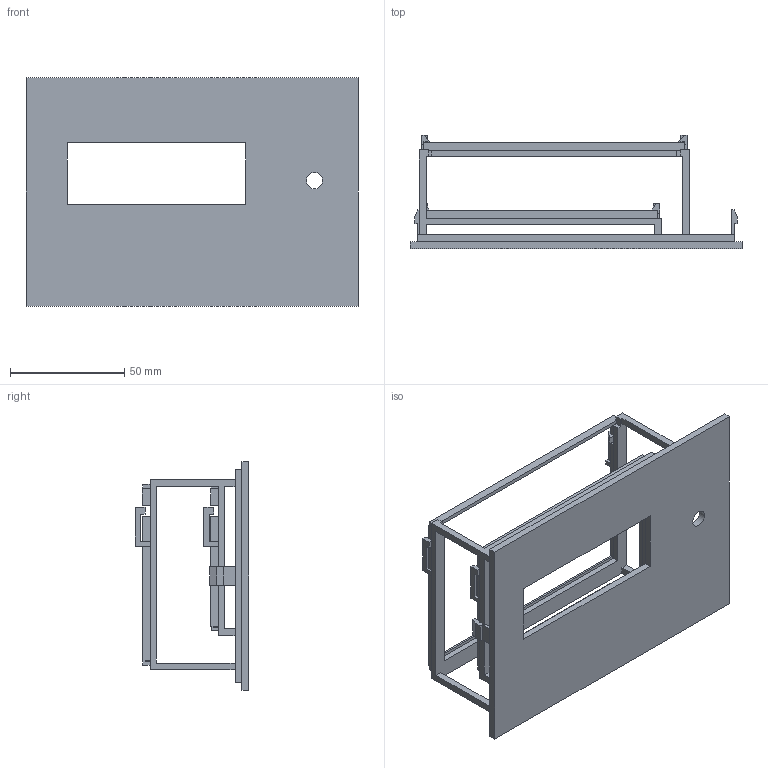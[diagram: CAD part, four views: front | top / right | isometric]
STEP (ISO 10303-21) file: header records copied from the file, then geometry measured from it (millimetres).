
FILE_DESCRIPTION(('Open CASCADE Model'),'2;1');
FILE_NAME('Open CASCADE Shape Model','2026-11-04T22:00:12',('Author'),( 'Open CASCADE'),'Open CASCADE STEP processor 7.8','Open CASCADE 7.8' ,'Unknown');
FILE_SCHEMA(('AUTOMOTIVE_DESIGN { 1 0 10303 214 1 1 1 1 }'));
Length unit declared in the file: millimetre
Products named in the file (1): Open CASCADE STEP translator 7.8 2
Bounding box: 145 x 49.6 x 100 mm (x, y, z)
Volume: 56985.4 mm3; surface area: 50345.5 mm2
Topology: 1 solids, 1 shells, 193 faces, 587 edges, 390 vertices
Faces by surface type: plane 192, cylinder 1
Full cylindrical faces by diameter (mm): 7.2 x1
Entity records: 13727 total; most frequent: CARTESIAN_POINT 2750, DIRECTION 1746, LINE 1352, VECTOR 1352, ORIENTED_EDGE 1174, PCURVE 1174, DEFINITIONAL_REPRESENTATION 1174, EDGE_CURVE 587
